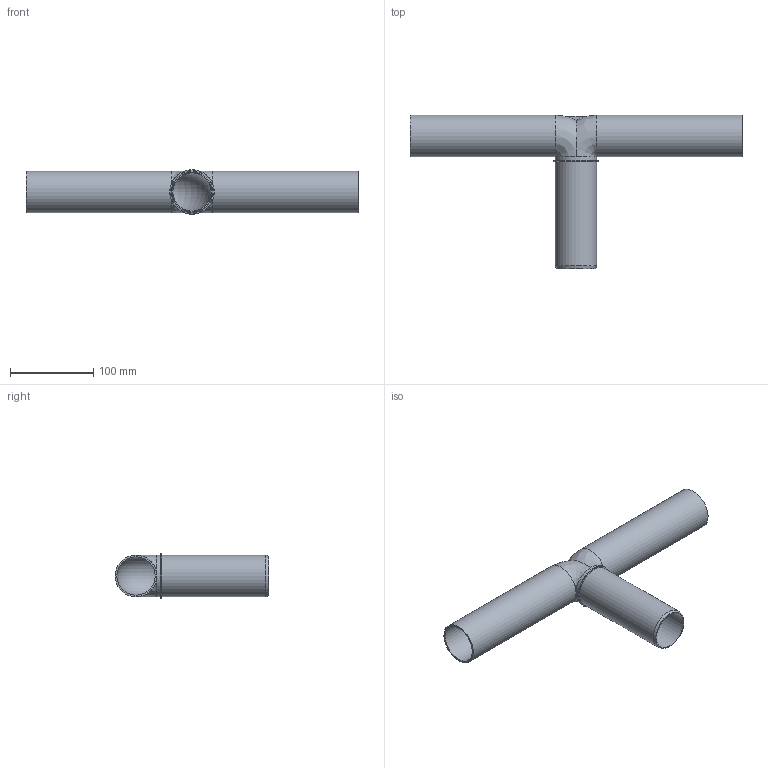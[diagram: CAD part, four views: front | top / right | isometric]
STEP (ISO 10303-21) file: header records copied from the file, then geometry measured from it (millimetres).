
FILE_DESCRIPTION(/* description */ (''),/* implementation_level */ '2;1');
FILE_NAME(/* name */ 'Z:\Geberit\Export\NewStep\390289.stp',/* time_stamp */ '2014-04-02T08:10:57+02:00',/* author */ ('ML'),/* organization */ (''),/* preprocessor_version */ 'ST-DEVELOPER v15.2',/* originating_system */ 'Autodesk Inventor 2014',/* authorisation */ '');
FILE_SCHEMA (('AUTOMOTIVE_DESIGN { 1 0 10303 214 3 1 1 }'));
Length unit declared in the file: millimetre
Products named in the file (1): 390289
Bounding box: 400 x 185.08 x 53.65 mm (x, y, z)
Volume: 164507.9 mm3; surface area: 164735.3 mm2
Topology: 1 solids, 1 shells, 22 faces, 53 edges, 30 vertices
Faces by surface type: cylinder 8, torus 5, plane 5, bspline 3, cone 1
Full cylindrical faces by diameter (mm): 46.15 x3, 50.15 x4
Entity records: 852 total; most frequent: CARTESIAN_POINT 403, DIRECTION 90, ORIENTED_EDGE 62, AXIS2_PLACEMENT_3D 44, EDGE_LOOP 38, EDGE_CURVE 31, VERTEX_POINT 25, CIRCLE 24
